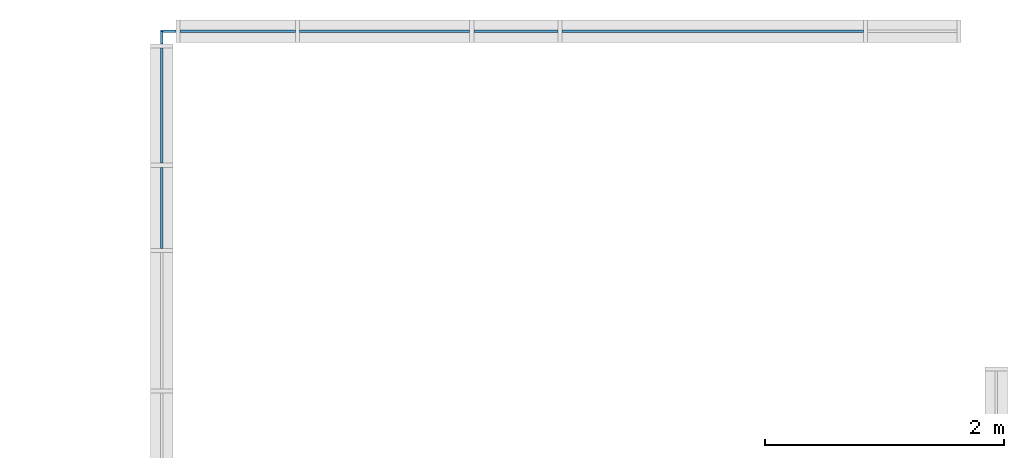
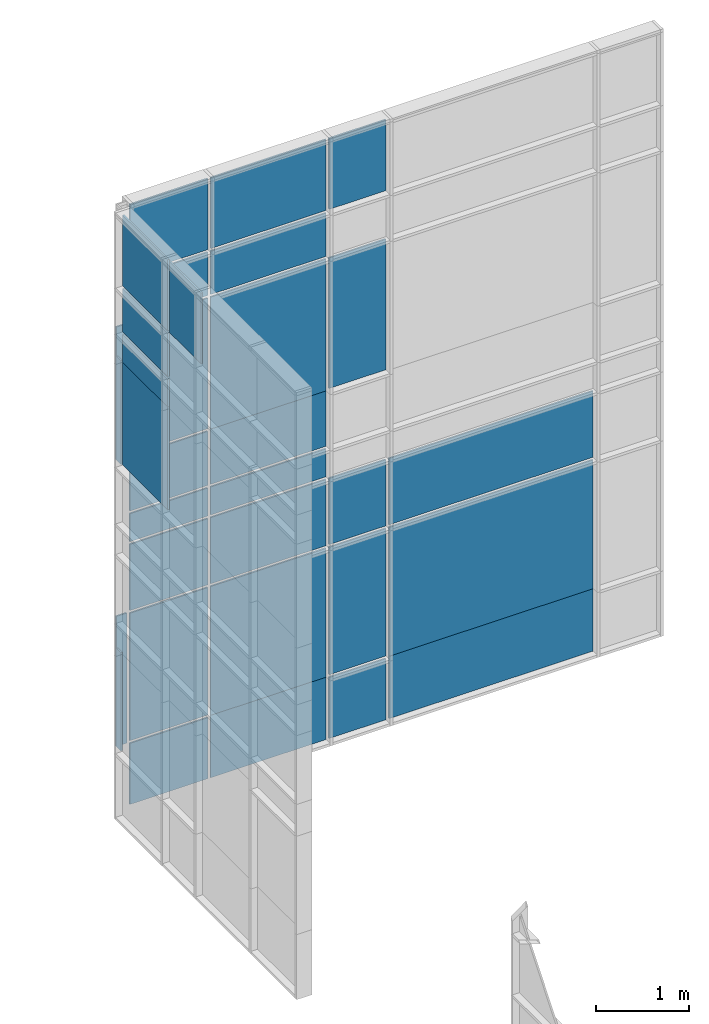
# One storey, part 36 of 73: 33 plates, 2 elements without a shape of their own.
"""IFC2X3 building model written with IfcOpenShell, lengths in millimetres."""

from ifc_helpers import new_model, entity, si_unit, converted_unit, derived_unit, direction, frame, frame_2d, origin, origin_2d_with_axis, place, context, subcontext, project, spatial, rectangle, extrude, source, transform, mapped, material, layer, layer_set, layer_usage, type_object, type_shapes, element, aggregate, save


model = new_model("IFC2X3")

# Units and contexts
model_context = context("Model", 3, precision=0.01, world=origin(), true_north=direction((6.12303176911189e-17, 1.0)))
body_context = subcontext(model_context, "Body", "Model", "MODEL_VIEW")
ifc_project = project(units=[si_unit("LENGTHUNIT", "METRE", prefix="MILLI"), si_unit("AREAUNIT", "SQUARE_METRE"), si_unit("VOLUMEUNIT", "CUBIC_METRE"), converted_unit("PLANEANGLEUNIT", "DEGREE", entity("IfcRatioMeasure", 0.0174532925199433), si_unit("PLANEANGLEUNIT", "RADIAN"), dimensions=[0, 0, 0, 0, 0, 0, 0]), si_unit("MASSUNIT", "GRAM", prefix="KILO"), derived_unit("MASSDENSITYUNIT", [(si_unit("MASSUNIT", "GRAM", prefix="KILO"), 1), (si_unit("LENGTHUNIT", "METRE"), -3)]), si_unit("TIMEUNIT", "SECOND"), si_unit("FREQUENCYUNIT", "HERTZ"), si_unit("THERMODYNAMICTEMPERATUREUNIT", "DEGREE_CELSIUS"), derived_unit("THERMALTRANSMITTANCEUNIT", [(si_unit("MASSUNIT", "GRAM", prefix="KILO"), 1), (si_unit("THERMODYNAMICTEMPERATUREUNIT", "KELVIN"), -1), (si_unit("TIMEUNIT", "SECOND"), -3)]), derived_unit("VOLUMETRICFLOWRATEUNIT", [(si_unit("LENGTHUNIT", "METRE"), 3), (si_unit("TIMEUNIT", "SECOND"), -1)]), si_unit("ELECTRICCURRENTUNIT", "AMPERE"), si_unit("ELECTRICVOLTAGEUNIT", "VOLT"), si_unit("POWERUNIT", "WATT"), si_unit("FORCEUNIT", "NEWTON", prefix="KILO"), si_unit("ILLUMINANCEUNIT", "LUX"), si_unit("LUMINOUSFLUXUNIT", "LUMEN"), si_unit("LUMINOUSINTENSITYUNIT", "CANDELA"), derived_unit("USERDEFINED", [(si_unit("MASSUNIT", "GRAM", prefix="KILO"), -1), (si_unit("LENGTHUNIT", "METRE"), -2), (si_unit("TIMEUNIT", "SECOND"), 3), (si_unit("LUMINOUSFLUXUNIT", "LUMEN"), 1)]), derived_unit("LINEARVELOCITYUNIT", [(si_unit("LENGTHUNIT", "METRE"), 1), (si_unit("TIMEUNIT", "SECOND"), -1)]), si_unit("PRESSUREUNIT", "PASCAL"), derived_unit("USERDEFINED", [(si_unit("LENGTHUNIT", "METRE"), -2), (si_unit("MASSUNIT", "GRAM", prefix="KILO"), 1), (si_unit("TIMEUNIT", "SECOND"), -2)])], contexts=[model_context])

# Site, building, storey
site_placement = place(None, frame((-151.875543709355, 2715.0, 0.0)))
site = spatial("IfcSite", under=ifc_project, at=site_placement, Name="Surface", CompositionType="ELEMENT")
building_placement = place(site_placement, origin())
building = spatial("IfcBuilding", under=site, at=building_placement, CompositionType="ELEMENT")
storey_placement = place(building_placement, frame((0.0, 0.0, 6730.43000000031)))
storey = spatial("IfcBuildingStorey", under=building, at=storey_placement, Name="3 korrus", CompositionType="ELEMENT", Elevation=6730.43000000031)

# Curtain wall, plates
curtain_wall_type = type_object("IfcCurtainWallType", Name="Curtain Wall:Klaasfassaad2", PredefinedType="NOTDEFINED")
curtain_wall_1_placement = place(storey_placement, frame((0.0, 0.0, -6730.43000000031)))
curtain_wall_1 = element("IfcCurtainWall", 1, at=curtain_wall_1_placement, inside=storey, type_object=curtain_wall_type, Name="Curtain Wall:Klaasfassaad2", ObjectType="Curtain Wall:Klaasfassaad2")
ifc_material = material(Name="<Unnamed>")
ifc_layer = layer(ifc_material, 20.0)
ifc_layer_set = layer_set([ifc_layer], Name="Curtain Wall:Klaassein KLS-01")
ifc_layer_usage_1 = layer_usage(ifc_layer_set, "AXIS3", "POSITIVE", 0.0)
plate_type_1 = type_object("IfcPlateType", Name="Glazed", PredefinedType="CURTAIN_PANEL", material=ifc_layer_set)
shared_shape_1 = source(origin(), body_context, "Body", "SweptSolid", [
    extrude(rectangle(XDim=20.0, YDim=2525.00000000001, at=origin_2d_with_axis()), frame((0.0, 0.0, 0.0), z_axis=(0.0, 0.0, 1.0), x_axis=(0.0, 1.0, 0.0)), (0.0, 0.0, 1.0), 815.159729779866),
])
type_shapes(plate_type_1, [shared_shape_1])
plate_1_placement = place(curtain_wall_1_placement, frame((36326.6162682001, 26624.0, 3909.42773967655), z_axis=(0.0, 0.0, 1.0), x_axis=(-1.0, 0.0, 0.0)))
plate_1 = element("IfcPlate", 2, at=plate_1_placement, type_object=plate_type_1, material=ifc_layer_usage_1, Name="System Panel:Glazed", ObjectType="Glazed", context=body_context, shape_type="MappedRepresentation", body=[
    mapped(shared_shape_1, transform((0.0, 0.0, 0.0), scale=1.0)),
])
ifc_layer_usage_2 = layer_usage(ifc_layer_set, "AXIS3", "POSITIVE", 0.0)
plate_type_2 = type_object("IfcPlateType", Name="Glazed", PredefinedType="CURTAIN_PANEL", material=ifc_layer_set)
shared_shape_2 = source(origin(), body_context, "Body", "SweptSolid", [
    extrude(rectangle(XDim=20.0, YDim=705.000000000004, at=origin_2d_with_axis()), frame((0.0, 0.0, 0.0), z_axis=(0.0, 0.0, 1.0), x_axis=(0.0, 1.0, 0.0)), (0.0, 0.0, 1.0), 797.659729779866),
])
type_shapes(plate_type_2, [shared_shape_2])
plate_2_placement = place(curtain_wall_1_placement, frame((34676.6162682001, 26624.0, 3909.42773967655), z_axis=(0.0, 0.0, 1.0), x_axis=(-1.0, 0.0, 0.0)))
plate_2 = element("IfcPlate", 3, at=plate_2_placement, type_object=plate_type_2, material=ifc_layer_usage_2, Name="System Panel:Glazed", ObjectType="Glazed", context=body_context, shape_type="MappedRepresentation", body=[
    mapped(shared_shape_2, transform((0.0, 0.0, 0.0), scale=1.0)),
])
ifc_layer_usage_3 = layer_usage(ifc_layer_set, "AXIS3", "POSITIVE", 0.0)
plate_type_3 = type_object("IfcPlateType", Name="Glazed", PredefinedType="CURTAIN_PANEL", material=ifc_layer_set)
shared_shape_3 = source(origin(), body_context, "Body", "SweptSolid", [
    extrude(rectangle(XDim=20.0, YDim=1427.0, at=origin_2d_with_axis()), frame((0.0, 0.0, 0.0), z_axis=(0.0, 0.0, 1.0), x_axis=(0.0, 1.0, 0.0)), (0.0, 0.0, 1.0), 815.159729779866),
])
type_shapes(plate_type_3, [shared_shape_3])
plate_3_placement = place(curtain_wall_1_placement, frame((33575.6162682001, 26624.0, 3909.42773967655), z_axis=(0.0, 0.0, 1.0), x_axis=(-1.0, 0.0, 0.0)))
plate_3 = element("IfcPlate", 4, at=plate_3_placement, type_object=plate_type_3, material=ifc_layer_usage_3, Name="System Panel:Glazed", ObjectType="Glazed", context=body_context, shape_type="MappedRepresentation", body=[
    mapped(shared_shape_3, transform((0.0, 0.0, 0.0), scale=1.0)),
])
ifc_layer_usage_4 = layer_usage(ifc_layer_set, "AXIS3", "POSITIVE", 0.0)
plate_type_4 = type_object("IfcPlateType", Name="Glazed", PredefinedType="CURTAIN_PANEL", material=ifc_layer_set)
shared_shape_4 = source(origin(), body_context, "Body", "SweptSolid", [
    extrude(rectangle(XDim=20.0, YDim=964.999999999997, at=origin_2d_with_axis()), frame((0.0, 0.0, 0.0), z_axis=(0.0, 0.0, 1.0), x_axis=(0.0, 1.0, 0.0)), (0.0, 0.0, 1.0), 797.659729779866),
])
type_shapes(plate_type_4, [shared_shape_4])
plate_4_placement = place(curtain_wall_1_placement, frame((32344.6162682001, 26624.0, 3909.42773967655), z_axis=(0.0, 0.0, 1.0), x_axis=(-1.0, 0.0, 0.0)))
plate_4 = element("IfcPlate", 5, at=plate_4_placement, type_object=plate_type_4, material=ifc_layer_usage_4, Name="System Panel:Glazed", ObjectType="Glazed", context=body_context, shape_type="MappedRepresentation", body=[
    mapped(shared_shape_4, transform((0.0, 0.0, 0.0), scale=1.0)),
])
ifc_layer_usage_5 = layer_usage(ifc_layer_set, "AXIS3", "POSITIVE", 0.0)
plate_type_5 = type_object("IfcPlateType", Name="Glazed", PredefinedType="CURTAIN_PANEL", material=ifc_layer_set)
shared_shape_5 = source(origin(), body_context, "Body", "SweptSolid", [
    extrude(rectangle(XDim=20.0, YDim=2525.00000000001, at=origin_2d_with_axis()), frame((0.0, 0.0, 0.0), z_axis=(0.0, 0.0, 1.0), x_axis=(0.0, 1.0, 0.0)), (0.0, 0.0, 1.0), 1682.81945955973),
])
type_shapes(plate_type_5, [shared_shape_5])
plate_5_placement = place(curtain_wall_1_placement, frame((36326.6162682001, 26624.0, 4724.58746945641), z_axis=(0.0, 0.0, 1.0), x_axis=(-1.0, 0.0, 0.0)))
plate_5 = element("IfcPlate", 6, at=plate_5_placement, type_object=plate_type_5, material=ifc_layer_usage_5, Name="System Panel:Glazed", ObjectType="Glazed", context=body_context, shape_type="MappedRepresentation", body=[
    mapped(shared_shape_5, transform((0.0, 0.0, 0.0), scale=1.0)),
])
ifc_layer_usage_6 = layer_usage(ifc_layer_set, "AXIS3", "POSITIVE", 0.0)
plate_type_6 = type_object("IfcPlateType", Name="Glazed", PredefinedType="CURTAIN_PANEL", material=ifc_layer_set)
shared_shape_6 = source(origin(), body_context, "Body", "SweptSolid", [
    extrude(rectangle(XDim=20.0, YDim=705.000000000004, at=origin_2d_with_axis()), frame((0.0, 0.0, 0.0), z_axis=(0.0, 0.0, 1.0), x_axis=(0.0, 1.0, 0.0)), (0.0, 0.0, 1.0), 1665.31945955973),
])
type_shapes(plate_type_6, [shared_shape_6])
plate_6_placement = place(curtain_wall_1_placement, frame((34676.6162682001, 26624.0, 4742.08746945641), z_axis=(0.0, 0.0, 1.0), x_axis=(-1.0, 0.0, 0.0)))
plate_6 = element("IfcPlate", 7, at=plate_6_placement, type_object=plate_type_6, material=ifc_layer_usage_6, Name="System Panel:Glazed", ObjectType="Glazed", context=body_context, shape_type="MappedRepresentation", body=[
    mapped(shared_shape_6, transform((0.0, 0.0, 0.0), scale=1.0)),
])
ifc_layer_usage_7 = layer_usage(ifc_layer_set, "AXIS3", "POSITIVE", 0.0)
plate_type_7 = type_object("IfcPlateType", Name="Glazed", PredefinedType="CURTAIN_PANEL", material=ifc_layer_set)
shared_shape_7 = source(origin(), body_context, "Body", "SweptSolid", [
    extrude(rectangle(XDim=20.0, YDim=1427.0, at=origin_2d_with_axis()), frame((0.0, 0.0, 0.0), z_axis=(0.0, 0.0, 1.0), x_axis=(0.0, 1.0, 0.0)), (0.0, 0.0, 1.0), 1682.81945955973),
])
type_shapes(plate_type_7, [shared_shape_7])
plate_7_placement = place(curtain_wall_1_placement, frame((33575.6162682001, 26624.0, 4724.58746945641), z_axis=(0.0, 0.0, 1.0), x_axis=(-1.0, 0.0, 0.0)))
plate_7 = element("IfcPlate", 8, at=plate_7_placement, type_object=plate_type_7, material=ifc_layer_usage_7, Name="System Panel:Glazed", ObjectType="Glazed", context=body_context, shape_type="MappedRepresentation", body=[
    mapped(shared_shape_7, transform((0.0, 0.0, 0.0), scale=1.0)),
])
ifc_layer_usage_8 = layer_usage(ifc_layer_set, "AXIS3", "POSITIVE", 0.0)
plate_type_8 = type_object("IfcPlateType", Name="Glazed", PredefinedType="CURTAIN_PANEL", material=ifc_layer_set)
shared_shape_8 = source(origin(), body_context, "Body", "SweptSolid", [
    extrude(rectangle(XDim=20.0, YDim=964.999999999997, at=origin_2d_with_axis()), frame((0.0, 0.0, 0.0), z_axis=(0.0, 0.0, 1.0), x_axis=(0.0, 1.0, 0.0)), (0.0, 0.0, 1.0), 1665.31945955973),
])
type_shapes(plate_type_8, [shared_shape_8])
plate_8_placement = place(curtain_wall_1_placement, frame((32344.6162682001, 26624.0, 4742.08746945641), z_axis=(0.0, 0.0, 1.0), x_axis=(-1.0, 0.0, 0.0)))
plate_8 = element("IfcPlate", 9, at=plate_8_placement, type_object=plate_type_8, material=ifc_layer_usage_8, Name="System Panel:Glazed", ObjectType="Glazed", context=body_context, shape_type="MappedRepresentation", body=[
    mapped(shared_shape_8, transform((0.0, 0.0, 0.0), scale=1.0)),
])
ifc_layer_usage_9 = layer_usage(ifc_layer_set, "AXIS3", "POSITIVE", 0.0)
plate_type_9 = type_object("IfcPlateType", Name="Glazed", PredefinedType="CURTAIN_PANEL", material=ifc_layer_set)
shared_shape_9 = source(origin(), body_context, "Body", "SweptSolid", [
    extrude(rectangle(XDim=20.0, YDim=129.499999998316, at=origin_2d_with_axis()), frame((0.0, 0.0, 0.0), z_axis=(0.0, 0.0, 1.0), x_axis=(0.0, 1.0, 0.0)), (0.0, 0.0, 1.0), 1700.31945955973),
])
type_shapes(plate_type_9, [shared_shape_9])
plate_9_placement = place(curtain_wall_1_placement, frame((31762.366268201, 26624.0, 4724.58746945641), z_axis=(0.0, 0.0, 1.0), x_axis=(-1.0, 0.0, 0.0)))
plate_9 = element("IfcPlate", 10, at=plate_9_placement, type_object=plate_type_9, material=ifc_layer_usage_9, Name="System Panel:Glazed", ObjectType="Glazed", context=body_context, shape_type="MappedRepresentation", body=[
    mapped(shared_shape_9, transform((0.0, 0.0, 0.0), scale=1.0)),
])
ifc_layer_usage_10 = layer_usage(ifc_layer_set, "AXIS3", "POSITIVE", 0.0)
plate_type_10 = type_object("IfcPlateType", Name="Glazed", PredefinedType="CURTAIN_PANEL", material=ifc_layer_set)
shared_shape_10 = source(origin(), body_context, "Body", "SweptSolid", [
    extrude(rectangle(XDim=20.0, YDim=2525.00000000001, at=origin_2d_with_axis()), frame((0.0, 0.0, 0.0), z_axis=(0.0, 0.0, 1.0), x_axis=(0.0, 1.0, 0.0)), (0.0, 0.0, 1.0), 865.000000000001),
])
type_shapes(plate_type_10, [shared_shape_10])
plate_10_placement = place(curtain_wall_1_placement, frame((36326.6162682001, 26624.0, 6442.40692901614), z_axis=(0.0, 0.0, 1.0), x_axis=(-1.0, 0.0, 0.0)))
plate_10 = element("IfcPlate", 11, at=plate_10_placement, type_object=plate_type_10, material=ifc_layer_usage_10, Name="System Panel:Glazed", ObjectType="Glazed", context=body_context, shape_type="MappedRepresentation", body=[
    mapped(shared_shape_10, transform((0.0, 0.0, 0.0), scale=1.0)),
])
ifc_layer_usage_11 = layer_usage(ifc_layer_set, "AXIS3", "POSITIVE", 0.0)
plate_type_11 = type_object("IfcPlateType", Name="Glazed", PredefinedType="CURTAIN_PANEL", material=ifc_layer_set)
shared_shape_11 = source(origin(), body_context, "Body", "SweptSolid", [
    extrude(rectangle(XDim=20.0, YDim=705.000000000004, at=origin_2d_with_axis()), frame((0.0, 0.0, 0.0), z_axis=(0.0, 0.0, 1.0), x_axis=(0.0, 1.0, 0.0)), (0.0, 0.0, 1.0), 865.000000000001),
])
type_shapes(plate_type_11, [shared_shape_11])
plate_11_placement = place(curtain_wall_1_placement, frame((34676.6162682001, 26624.0, 6442.40692901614), z_axis=(0.0, 0.0, 1.0), x_axis=(-1.0, 0.0, 0.0)))
plate_11 = element("IfcPlate", 12, at=plate_11_placement, type_object=plate_type_11, material=ifc_layer_usage_11, Name="System Panel:Glazed", ObjectType="Glazed", context=body_context, shape_type="MappedRepresentation", body=[
    mapped(shared_shape_11, transform((0.0, 0.0, 0.0), scale=1.0)),
])
ifc_layer_usage_12 = layer_usage(ifc_layer_set, "AXIS3", "POSITIVE", 0.0)
plate_type_12 = type_object("IfcPlateType", Name="Glazed", PredefinedType="CURTAIN_PANEL", material=ifc_layer_set)
shared_shape_12 = source(origin(), body_context, "Body", "SweptSolid", [
    extrude(rectangle(XDim=20.0, YDim=1427.0, at=origin_2d_with_axis()), frame((0.0, 0.0, 0.0), z_axis=(0.0, 0.0, 1.0), x_axis=(0.0, 1.0, 0.0)), (0.0, 0.0, 1.0), 865.000000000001),
])
type_shapes(plate_type_12, [shared_shape_12])
plate_12_placement = place(curtain_wall_1_placement, frame((33575.6162682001, 26624.0, 6442.40692901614), z_axis=(0.0, 0.0, 1.0), x_axis=(-1.0, 0.0, 0.0)))
plate_12 = element("IfcPlate", 13, at=plate_12_placement, type_object=plate_type_12, material=ifc_layer_usage_12, Name="System Panel:Glazed", ObjectType="Glazed", context=body_context, shape_type="MappedRepresentation", body=[
    mapped(shared_shape_12, transform((0.0, 0.0, 0.0), scale=1.0)),
])
ifc_layer_usage_13 = layer_usage(ifc_layer_set, "AXIS3", "POSITIVE", 0.0)
plate_type_13 = type_object("IfcPlateType", Name="Glazed", PredefinedType="CURTAIN_PANEL", material=ifc_layer_set)
shared_shape_13 = source(origin(), body_context, "Body", "SweptSolid", [
    extrude(rectangle(XDim=20.0, YDim=964.999999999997, at=origin_2d_with_axis()), frame((0.0, 0.0, 0.0), z_axis=(0.0, 0.0, 1.0), x_axis=(0.0, 1.0, 0.0)), (0.0, 0.0, 1.0), 865.000000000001),
])
type_shapes(plate_type_13, [shared_shape_13])
plate_13_placement = place(curtain_wall_1_placement, frame((32344.6162682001, 26624.0, 6442.40692901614), z_axis=(0.0, 0.0, 1.0), x_axis=(-1.0, 0.0, 0.0)))
plate_13 = element("IfcPlate", 14, at=plate_13_placement, type_object=plate_type_13, material=ifc_layer_usage_13, Name="System Panel:Glazed", ObjectType="Glazed", context=body_context, shape_type="MappedRepresentation", body=[
    mapped(shared_shape_13, transform((0.0, 0.0, 0.0), scale=1.0)),
])
ifc_layer_usage_14 = layer_usage(ifc_layer_set, "AXIS3", "POSITIVE", 0.0)
plate_type_14 = type_object("IfcPlateType", Name="Glazed", PredefinedType="CURTAIN_PANEL", material=ifc_layer_set)
shared_shape_14 = source(origin(), body_context, "Body", "SweptSolid", [
    extrude(rectangle(XDim=20.0, YDim=1427.0, at=origin_2d_with_axis()), frame((0.0, 0.0, 0.0), z_axis=(0.0, 0.0, 1.0), x_axis=(0.0, 1.0, 0.0)), (0.0, 0.0, 1.0), 365.0),
])
type_shapes(plate_type_14, [shared_shape_14])
plate_14_placement = place(curtain_wall_1_placement, frame((33575.6162682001, 26624.0, 7342.40692901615), z_axis=(0.0, 0.0, 1.0), x_axis=(-1.0, 0.0, 0.0)))
plate_14 = element("IfcPlate", 15, at=plate_14_placement, type_object=plate_type_14, material=ifc_layer_usage_14, Name="System Panel:Glazed", ObjectType="Glazed", context=body_context, shape_type="MappedRepresentation", body=[
    mapped(shared_shape_14, transform((0.0, 0.0, 0.0), scale=1.0)),
])
ifc_layer_usage_15 = layer_usage(ifc_layer_set, "AXIS3", "POSITIVE", 0.0)
plate_type_15 = type_object("IfcPlateType", Name="Glazed", PredefinedType="CURTAIN_PANEL", material=ifc_layer_set)
shared_shape_15 = source(origin(), body_context, "Body", "SweptSolid", [
    extrude(rectangle(XDim=20.0, YDim=964.999999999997, at=origin_2d_with_axis()), frame((0.0, 0.0, 0.0), z_axis=(0.0, 0.0, 1.0), x_axis=(0.0, 1.0, 0.0)), (0.0, 0.0, 1.0), 365.0),
])
type_shapes(plate_type_15, [shared_shape_15])
plate_15_placement = place(curtain_wall_1_placement, frame((32344.6162682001, 26624.0, 7342.40692901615), z_axis=(0.0, 0.0, 1.0), x_axis=(-1.0, 0.0, 0.0)))
plate_15 = element("IfcPlate", 16, at=plate_15_placement, type_object=plate_type_15, material=ifc_layer_usage_15, Name="System Panel:Glazed", ObjectType="Glazed", context=body_context, shape_type="MappedRepresentation", body=[
    mapped(shared_shape_15, transform((0.0, 0.0, 0.0), scale=1.0)),
])
ifc_layer_usage_16 = layer_usage(ifc_layer_set, "AXIS3", "POSITIVE", 0.0)
plate_type_16 = type_object("IfcPlateType", Name="Glazed", PredefinedType="CURTAIN_PANEL", material=ifc_layer_set)
shared_shape_16 = source(origin(), body_context, "Body", "SweptSolid", [
    extrude(rectangle(XDim=20.0, YDim=1427.0, at=origin_2d_with_axis()), frame((0.0, 0.0, 0.0), z_axis=(0.0, 0.0, 1.0), x_axis=(0.0, 1.0, 0.0)), (0.0, 0.0, 1.0), 722.500000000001),
])
type_shapes(plate_type_16, [shared_shape_16])
plate_16_placement = place(curtain_wall_1_placement, frame((33575.6162682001, 26624.0, 7742.40692901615), z_axis=(0.0, 0.0, 1.0), x_axis=(-1.0, 0.0, 0.0)))
plate_16 = element("IfcPlate", 17, at=plate_16_placement, type_object=plate_type_16, material=ifc_layer_usage_16, Name="System Panel:Glazed", ObjectType="Glazed", context=body_context, shape_type="MappedRepresentation", body=[
    mapped(shared_shape_16, transform((0.0, 0.0, 0.0), scale=1.0)),
])
ifc_layer_usage_17 = layer_usage(ifc_layer_set, "AXIS3", "POSITIVE", 0.0)
plate_type_17 = type_object("IfcPlateType", Name="Glazed", PredefinedType="CURTAIN_PANEL", material=ifc_layer_set)
shared_shape_17 = source(origin(), body_context, "Body", "SweptSolid", [
    extrude(rectangle(XDim=20.0, YDim=964.999999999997, at=origin_2d_with_axis()), frame((0.0, 0.0, 0.0), z_axis=(0.0, 0.0, 1.0), x_axis=(0.0, 1.0, 0.0)), (0.0, 0.0, 1.0), 705.000000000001),
])
type_shapes(plate_type_17, [shared_shape_17])
plate_17_placement = place(curtain_wall_1_placement, frame((32344.6162682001, 26624.0, 7742.40692901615), z_axis=(0.0, 0.0, 1.0), x_axis=(-1.0, 0.0, 0.0)))
plate_17 = element("IfcPlate", 18, at=plate_17_placement, type_object=plate_type_17, material=ifc_layer_usage_17, Name="System Panel:Glazed", ObjectType="Glazed", context=body_context, shape_type="MappedRepresentation", body=[
    mapped(shared_shape_17, transform((0.0, 0.0, 0.0), scale=1.0)),
])
ifc_layer_usage_18 = layer_usage(ifc_layer_set, "AXIS3", "POSITIVE", 0.0)
plate_type_18 = type_object("IfcPlateType", Name="Glazed", PredefinedType="CURTAIN_PANEL", material=ifc_layer_set)
shared_shape_18 = source(origin(), body_context, "Body", "SweptSolid", [
    extrude(rectangle(XDim=20.0, YDim=705.000000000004, at=origin_2d_with_axis()), frame((0.0, 0.0, 0.0), z_axis=(0.0, 0.0, 1.0), x_axis=(0.0, 1.0, 0.0)), (0.0, 0.0, 1.0), 1705.0),
])
type_shapes(plate_type_18, [shared_shape_18])
plate_18_placement = place(curtain_wall_1_placement, frame((34676.6162682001, 26624.0, 8482.40692901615), z_axis=(0.0, 0.0, 1.0), x_axis=(-1.0, 0.0, 0.0)))
plate_18 = element("IfcPlate", 19, at=plate_18_placement, type_object=plate_type_18, material=ifc_layer_usage_18, Name="System Panel:Glazed", ObjectType="Glazed", context=body_context, shape_type="MappedRepresentation", body=[
    mapped(shared_shape_18, transform((0.0, 0.0, 0.0), scale=1.0)),
])
ifc_layer_usage_19 = layer_usage(ifc_layer_set, "AXIS3", "POSITIVE", 0.0)
plate_type_19 = type_object("IfcPlateType", Name="Glazed", PredefinedType="CURTAIN_PANEL", material=ifc_layer_set)
shared_shape_19 = source(origin(), body_context, "Body", "SweptSolid", [
    extrude(rectangle(XDim=20.0, YDim=1427.0, at=origin_2d_with_axis()), frame((0.0, 0.0, 0.0), z_axis=(0.0, 0.0, 1.0), x_axis=(0.0, 1.0, 0.0)), (0.0, 0.0, 1.0), 1722.5),
])
type_shapes(plate_type_19, [shared_shape_19])
plate_19_placement = place(curtain_wall_1_placement, frame((33575.6162682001, 26624.0, 8464.90692901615), z_axis=(0.0, 0.0, 1.0), x_axis=(-1.0, 0.0, 0.0)))
plate_19 = element("IfcPlate", 20, at=plate_19_placement, type_object=plate_type_19, material=ifc_layer_usage_19, Name="System Panel:Glazed", ObjectType="Glazed", context=body_context, shape_type="MappedRepresentation", body=[
    mapped(shared_shape_19, transform((0.0, 0.0, 0.0), scale=1.0)),
])
ifc_layer_usage_20 = layer_usage(ifc_layer_set, "AXIS3", "POSITIVE", 0.0)
plate_type_20 = type_object("IfcPlateType", Name="Glazed", PredefinedType="CURTAIN_PANEL", material=ifc_layer_set)
shared_shape_20 = source(origin(), body_context, "Body", "SweptSolid", [
    extrude(rectangle(XDim=20.0, YDim=964.999999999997, at=origin_2d_with_axis()), frame((0.0, 0.0, 0.0), z_axis=(0.0, 0.0, 1.0), x_axis=(0.0, 1.0, 0.0)), (0.0, 0.0, 1.0), 1705.0),
])
type_shapes(plate_type_20, [shared_shape_20])
plate_20_placement = place(curtain_wall_1_placement, frame((32344.6162682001, 26624.0, 8482.40692901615), z_axis=(0.0, 0.0, 1.0), x_axis=(-1.0, 0.0, 0.0)))
plate_20 = element("IfcPlate", 21, at=plate_20_placement, type_object=plate_type_20, material=ifc_layer_usage_20, Name="System Panel:Glazed", ObjectType="Glazed", context=body_context, shape_type="MappedRepresentation", body=[
    mapped(shared_shape_20, transform((0.0, 0.0, 0.0), scale=1.0)),
])
ifc_layer_usage_21 = layer_usage(ifc_layer_set, "AXIS3", "POSITIVE", 0.0)
plate_type_21 = type_object("IfcPlateType", Name="Glazed", PredefinedType="CURTAIN_PANEL", material=ifc_layer_set)
shared_shape_21 = source(origin(), body_context, "Body", "SweptSolid", [
    extrude(rectangle(XDim=20.0, YDim=129.499999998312, at=frame_2d((0.0, -7.105427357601e-15), x_axis=(1.0, 0.0))), frame((0.0, 0.0, 0.0), z_axis=(0.0, 0.0, 1.0), x_axis=(0.0, 1.0, 0.0)), (0.0, 0.0, 1.0), 1740.0),
])
type_shapes(plate_type_21, [shared_shape_21])
plate_21_placement = place(curtain_wall_1_placement, frame((31762.366268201, 26624.0, 8464.90692901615), z_axis=(0.0, 0.0, 1.0), x_axis=(-1.0, 0.0, 0.0)))
plate_21 = element("IfcPlate", 22, at=plate_21_placement, type_object=plate_type_21, material=ifc_layer_usage_21, Name="System Panel:Glazed", ObjectType="Glazed", context=body_context, shape_type="MappedRepresentation", body=[
    mapped(shared_shape_21, transform((0.0, 0.0, 0.0), scale=1.0)),
])
ifc_layer_usage_22 = layer_usage(ifc_layer_set, "AXIS3", "POSITIVE", 0.0)
plate_type_22 = type_object("IfcPlateType", Name="Glazed", PredefinedType="CURTAIN_PANEL", material=ifc_layer_set)
shared_shape_22 = source(origin(), body_context, "Body", "SweptSolid", [
    extrude(rectangle(XDim=20.0, YDim=1427.0, at=origin_2d_with_axis()), frame((0.0, 0.0, 0.0), z_axis=(0.0, 0.0, 1.0), x_axis=(0.0, 1.0, 0.0)), (0.0, 0.0, 1.0), 565.0),
])
type_shapes(plate_type_22, [shared_shape_22])
plate_22_placement = place(curtain_wall_1_placement, frame((33575.6162682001, 26624.0, 10222.4069290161), z_axis=(0.0, 0.0, 1.0), x_axis=(-1.0, 0.0, 0.0)))
plate_22 = element("IfcPlate", 23, at=plate_22_placement, type_object=plate_type_22, material=ifc_layer_usage_22, Name="System Panel:Glazed", ObjectType="Glazed", context=body_context, shape_type="MappedRepresentation", body=[
    mapped(shared_shape_22, transform((0.0, 0.0, 0.0), scale=1.0)),
])
ifc_layer_usage_23 = layer_usage(ifc_layer_set, "AXIS3", "POSITIVE", 0.0)
plate_type_23 = type_object("IfcPlateType", Name="Glazed", PredefinedType="CURTAIN_PANEL", material=ifc_layer_set)
shared_shape_23 = source(origin(), body_context, "Body", "SweptSolid", [
    extrude(rectangle(XDim=20.0, YDim=964.999999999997, at=origin_2d_with_axis()), frame((0.0, 0.0, 0.0), z_axis=(0.0, 0.0, 1.0), x_axis=(0.0, 1.0, 0.0)), (0.0, 0.0, 1.0), 565.0),
])
type_shapes(plate_type_23, [shared_shape_23])
plate_23_placement = place(curtain_wall_1_placement, frame((32344.6162682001, 26624.0, 10222.4069290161), z_axis=(0.0, 0.0, 1.0), x_axis=(-1.0, 0.0, 0.0)))
plate_23 = element("IfcPlate", 24, at=plate_23_placement, type_object=plate_type_23, material=ifc_layer_usage_23, Name="System Panel:Glazed", ObjectType="Glazed", context=body_context, shape_type="MappedRepresentation", body=[
    mapped(shared_shape_23, transform((0.0, 0.0, 0.0), scale=1.0)),
])

# Curtain wall, plate
curtain_wall_2_placement = place(storey_placement, frame((0.0, 0.0, -6730.43000000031)))
curtain_wall_2 = element("IfcCurtainWall", 25, at=curtain_wall_2_placement, inside=storey, type_object=curtain_wall_type, Name="Curtain Wall:Klaasfassaad2", ObjectType="Curtain Wall:Klaasfassaad2")
ifc_layer_usage_24 = layer_usage(ifc_layer_set, "AXIS3", "POSITIVE", 0.0)
plate_24_placement = place(curtain_wall_2_placement, frame((31707.6162682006, 26001.1813631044, 10222.4069290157), z_axis=(0.0, 0.0, 1.0), x_axis=(0.0, 1.0, 0.0)))
plate_24 = element("IfcPlate", 26, at=plate_24_placement, type_object=plate_type_23, material=ifc_layer_usage_24, Name="System Panel:Glazed", ObjectType="Glazed", context=body_context, shape_type="MappedRepresentation", body=[
    mapped(shared_shape_23, transform((0.0, 0.0, 0.0), scale=1.0)),
])

# Plate
ifc_layer_usage_25 = layer_usage(ifc_layer_set, "AXIS3", "POSITIVE", 0.0)
plate_type_24 = type_object("IfcPlateType", Name="Glazed", PredefinedType="CURTAIN_PANEL", material=ifc_layer_set)
shared_shape_24 = source(origin(), body_context, "Body", "SweptSolid", [
    extrude(rectangle(XDim=20.0, YDim=705.000000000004, at=origin_2d_with_axis()), frame((0.0, 0.0, 0.0), z_axis=(0.0, 0.0, 1.0), x_axis=(0.0, 1.0, 0.0)), (0.0, 0.0, 1.0), 925.000000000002),
])
type_shapes(plate_type_24, [shared_shape_24])
plate_25_placement = place(curtain_wall_1_placement, frame((34676.6162682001, 26624.0, 10822.4069290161), z_axis=(0.0, 0.0, 1.0), x_axis=(-1.0, 0.0, 0.0)))
plate_25 = element("IfcPlate", 27, at=plate_25_placement, type_object=plate_type_24, material=ifc_layer_usage_25, Name="System Panel:Glazed", ObjectType="Glazed", context=body_context, shape_type="MappedRepresentation", body=[
    mapped(shared_shape_24, transform((0.0, 0.0, 0.0), scale=1.0)),
])

ifc_layer_usage_26 = layer_usage(ifc_layer_set, "AXIS3", "POSITIVE", 0.0)
plate_type_25 = type_object("IfcPlateType", Name="Glazed", PredefinedType="CURTAIN_PANEL", material=ifc_layer_set)
shared_shape_25 = source(origin(), body_context, "Body", "SweptSolid", [
    extrude(rectangle(XDim=20.0, YDim=1427.0, at=origin_2d_with_axis()), frame((0.0, 0.0, 0.0), z_axis=(0.0, 0.0, 1.0), x_axis=(0.0, 1.0, 0.0)), (0.0, 0.0, 1.0), 925.000000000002),
])
type_shapes(plate_type_25, [shared_shape_25])
plate_26_placement = place(curtain_wall_1_placement, frame((33575.6162682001, 26624.0, 10822.4069290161), z_axis=(0.0, 0.0, 1.0), x_axis=(-1.0, 0.0, 0.0)))
plate_26 = element("IfcPlate", 28, at=plate_26_placement, type_object=plate_type_25, material=ifc_layer_usage_26, Name="System Panel:Glazed", ObjectType="Glazed", context=body_context, shape_type="MappedRepresentation", body=[
    mapped(shared_shape_25, transform((0.0, 0.0, 0.0), scale=1.0)),
])

ifc_layer_usage_27 = layer_usage(ifc_layer_set, "AXIS3", "POSITIVE", 0.0)
plate_type_26 = type_object("IfcPlateType", Name="Glazed", PredefinedType="CURTAIN_PANEL", material=ifc_layer_set)
shared_shape_26 = source(origin(), body_context, "Body", "SweptSolid", [
    extrude(rectangle(XDim=20.0, YDim=964.999999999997, at=origin_2d_with_axis()), frame((0.0, 0.0, 0.0), z_axis=(0.0, 0.0, 1.0), x_axis=(0.0, 1.0, 0.0)), (0.0, 0.0, 1.0), 925.000000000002),
])
type_shapes(plate_type_26, [shared_shape_26])
plate_27_placement = place(curtain_wall_1_placement, frame((32344.6162682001, 26624.0, 10822.4069290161), z_axis=(0.0, 0.0, 1.0), x_axis=(-1.0, 0.0, 0.0)))
plate_27 = element("IfcPlate", 29, at=plate_27_placement, type_object=plate_type_26, material=ifc_layer_usage_27, Name="System Panel:Glazed", ObjectType="Glazed", context=body_context, shape_type="MappedRepresentation", body=[
    mapped(shared_shape_26, transform((0.0, 0.0, 0.0), scale=1.0)),
])

aggregate(curtain_wall_1, [plate_1, plate_2, plate_3, plate_4, plate_5, plate_6, plate_7, plate_8, plate_9, plate_10, plate_11, plate_12, plate_13, plate_14, plate_15, plate_16, plate_17, plate_18, plate_19, plate_20, plate_21, plate_22, plate_23, plate_25, plate_26, plate_27])

ifc_layer_usage_28 = layer_usage(ifc_layer_set, "AXIS3", "POSITIVE", 0.0)
plate_28_placement = place(curtain_wall_2_placement, frame((31707.6162682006, 26001.1813631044, 10822.4069290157), z_axis=(0.0, 0.0, 1.0), x_axis=(0.0, 1.0, 0.0)))
plate_28 = element("IfcPlate", 30, at=plate_28_placement, type_object=plate_type_26, material=ifc_layer_usage_28, Name="System Panel:Glazed", ObjectType="Glazed", context=body_context, shape_type="MappedRepresentation", body=[
    mapped(shared_shape_26, transform((0.0, 0.0, 0.0), scale=1.0)),
])

ifc_layer_usage_29 = layer_usage(ifc_layer_set, "AXIS3", "POSITIVE", 0.0)
plate_type_27 = type_object("IfcPlateType", Name="Glazed", PredefinedType="CURTAIN_PANEL", material=ifc_layer_set)
shared_shape_27 = source(origin(), body_context, "Body", "SweptSolid", [
    extrude(rectangle(XDim=20.0, YDim=105.318663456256, at=origin_2d_with_axis()), frame((0.0, 0.0, 0.0), z_axis=(0.0, 0.0, 1.0), x_axis=(0.0, 1.0, 0.0)), (0.0, 0.0, 1.0), 1284.84027022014),
])
type_shapes(plate_type_27, [shared_shape_27])
plate_29_placement = place(curtain_wall_2_placement, frame((31707.6162682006, 26571.3406948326, 4724.58746945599), z_axis=(0.0, 0.0, 1.0), x_axis=(0.0, 1.0, 0.0)))
plate_29 = element("IfcPlate", 31, at=plate_29_placement, type_object=plate_type_27, material=ifc_layer_usage_29, Name="System Panel:Glazed", ObjectType="Glazed", context=body_context, shape_type="MappedRepresentation", body=[
    mapped(shared_shape_27, transform((0.0, 0.0, 0.0), scale=1.0)),
])

ifc_layer_usage_30 = layer_usage(ifc_layer_set, "AXIS3", "POSITIVE", 0.0)
plate_type_28 = type_object("IfcPlateType", Name="Glazed", PredefinedType="CURTAIN_PANEL", material=ifc_layer_set)
shared_shape_28 = source(origin(), body_context, "Body", "SweptSolid", [
    extrude(rectangle(XDim=20.0, YDim=964.999999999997, at=origin_2d_with_axis()), frame((0.0, 0.0, 0.0), z_axis=(0.0, 0.0, 1.0), x_axis=(0.0, 1.0, 0.0)), (0.0, 0.0, 1.0), 1342.5),
])
type_shapes(plate_type_28, [shared_shape_28])
plate_30_placement = place(curtain_wall_2_placement, frame((31707.6162682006, 26001.1813631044, 8482.40692901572), z_axis=(0.0, 0.0, 1.0), x_axis=(0.0, 1.0, 0.0)))
plate_30 = element("IfcPlate", 32, at=plate_30_placement, type_object=plate_type_28, material=ifc_layer_usage_30, Name="System Panel:Glazed", ObjectType="Glazed", context=body_context, shape_type="MappedRepresentation", body=[
    mapped(shared_shape_28, transform((0.0, 0.0, 0.0), scale=1.0)),
])

ifc_layer_usage_31 = layer_usage(ifc_layer_set, "AXIS3", "POSITIVE", 0.0)
plate_type_29 = type_object("IfcPlateType", Name="Glazed", PredefinedType="CURTAIN_PANEL", material=ifc_layer_set)
shared_shape_29 = source(origin(), body_context, "Body", "SweptSolid", [
    extrude(rectangle(XDim=20.0, YDim=105.31866345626, at=origin_2d_with_axis()), frame((0.0, 0.0, 0.0), z_axis=(0.0, 0.0, 1.0), x_axis=(0.0, 1.0, 0.0)), (0.0, 0.0, 1.0), 1360.0),
])
type_shapes(plate_type_29, [shared_shape_29])
plate_31_placement = place(curtain_wall_2_placement, frame((31707.6162682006, 26571.3406948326, 8464.90692901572), z_axis=(0.0, 0.0, 1.0), x_axis=(0.0, 1.0, 0.0)))
plate_31 = element("IfcPlate", 33, at=plate_31_placement, type_object=plate_type_29, material=ifc_layer_usage_31, Name="System Panel:Glazed", ObjectType="Glazed", context=body_context, shape_type="MappedRepresentation", body=[
    mapped(shared_shape_29, transform((0.0, 0.0, 0.0), scale=1.0)),
])

ifc_layer_usage_32 = layer_usage(ifc_layer_set, "AXIS3", "POSITIVE", 0.0)
plate_type_30 = type_object("IfcPlateType", Name="Glazed", PredefinedType="CURTAIN_PANEL", material=ifc_layer_set)
shared_shape_30 = source(origin(), body_context, "Body", "SweptSolid", [
    extrude(rectangle(XDim=20.0, YDim=964.999999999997, at=origin_2d_with_axis()), frame((0.0, 0.0, 0.0), z_axis=(0.0, 0.0, 1.0), x_axis=(0.0, 1.0, 0.0)), (0.0, 0.0, 1.0), 362.5),
])
type_shapes(plate_type_30, [shared_shape_30])
plate_32_placement = place(curtain_wall_2_placement, frame((31707.6162682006, 26001.1813631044, 9824.90692901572), z_axis=(0.0, 0.0, 1.0), x_axis=(0.0, 1.0, 0.0)))
plate_32 = element("IfcPlate", 34, at=plate_32_placement, type_object=plate_type_30, material=ifc_layer_usage_32, Name="System Panel:Glazed", ObjectType="Glazed", context=body_context, shape_type="MappedRepresentation", body=[
    mapped(shared_shape_30, transform((0.0, 0.0, 0.0), scale=1.0)),
])

ifc_layer_usage_33 = layer_usage(ifc_layer_set, "AXIS3", "POSITIVE", 0.0)
plate_type_31 = type_object("IfcPlateType", Name="Glazed", PredefinedType="CURTAIN_PANEL", material=ifc_layer_set)
shared_shape_31 = source(origin(), body_context, "Body", "SweptSolid", [
    extrude(rectangle(XDim=20.0, YDim=679.999999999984, at=origin_2d_with_axis()), frame((0.0, 0.0, 0.0), z_axis=(0.0, 0.0, 1.0), x_axis=(0.0, 1.0, 0.0)), (0.0, 0.0, 1.0), 925.000000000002),
])
type_shapes(plate_type_31, [shared_shape_31])
plate_33_placement = place(curtain_wall_2_placement, frame((31707.6162682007, 25143.6813631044, 10822.4069290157), z_axis=(0.0, 0.0, 1.0), x_axis=(0.0, 1.0, 0.0)))
plate_33 = element("IfcPlate", 35, at=plate_33_placement, type_object=plate_type_31, material=ifc_layer_usage_33, Name="System Panel:Glazed", ObjectType="Glazed", context=body_context, shape_type="MappedRepresentation", body=[
    mapped(shared_shape_31, transform((0.0, 0.0, 0.0), scale=1.0)),
])

aggregate(curtain_wall_2, [plate_29, plate_30, plate_31, plate_32, plate_24, plate_33, plate_28])

save(model, "model.ifc")
